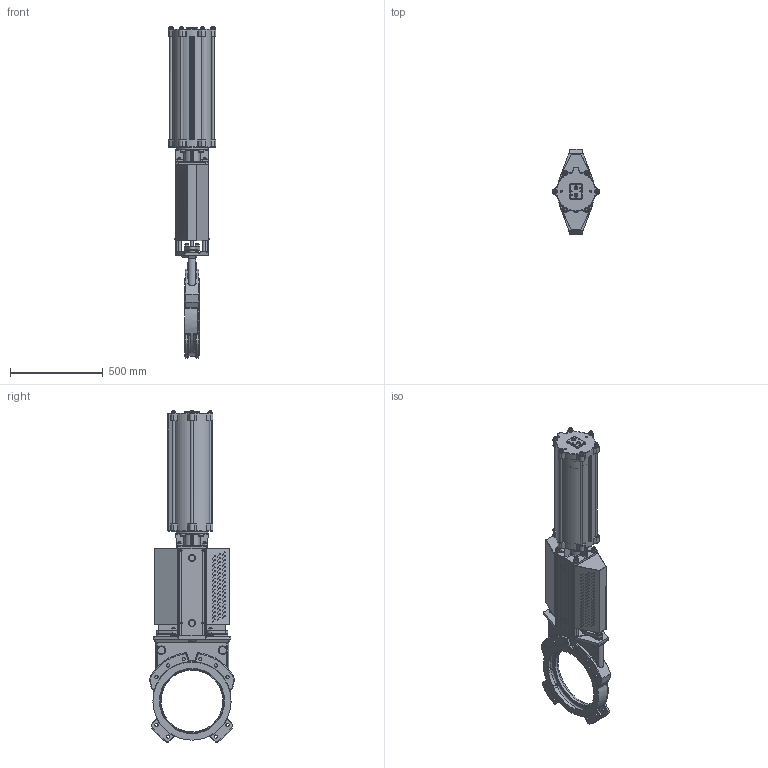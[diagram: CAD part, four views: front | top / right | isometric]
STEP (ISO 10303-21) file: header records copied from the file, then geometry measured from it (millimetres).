
FILE_DESCRIPTION(/* description */ (''),/* implementation_level */ '2;1');
FILE_NAME(/* name */ 'F:\Emir\3D-block special\MV VALVE\PNEUMATIC ACTUATOR\MV-DN350-PN10-FRSC200-450.stp',/* time_stamp */ '2018-04-24T10:56:24+02:00',/* author */ ('emimus'),/* organization */ (''),/* preprocessor_version */ 'ST-DEVELOPER v17',/* originating_system */ 'Autodesk Inventor 2018',/* authorisation */ '');
FILE_SCHEMA (('CONFIG_CONTROL_DESIGN'));
Products named in the file (1): MV-DN350-PN10-FRSC200-450
Bounding box: 256 x 458.23 x 1785.3 mm (x, y, z)
Volume: 17789064.6 mm3; surface area: 4217213.3 mm2
Topology: 1 solids, 1 shells, 3290 faces, 8271 edges, 5097 vertices
Faces by surface type: plane 1107, cylinder 1020, bspline 368, torus 343, cone 256, sphere 196
Full cylindrical faces by diameter (mm): 4 x2, 4.2 x16, 4.5 x4, 4.917 x7, 6.647 x4, 7.5 x4, 8.376 x4, 9.5 x2, 10 x9, 10.106 x6, 12 x20, 13 x22, 15 x4, 16 x12, 17 x4, 17.294 x20, 18 x3, 18.631 x2, 24 x19, 25 x2, 28 x5, 30 x4, 31.67 x1, 33 x1, 36 x2, 40 x5, 40.1 x1, 40.2 x2, 44 x2, 46 x1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
Entity records: 111758 total; most frequent: CARTESIAN_POINT 32843, DIRECTION 16966, ORIENTED_EDGE 16434, EDGE_CURVE 8217, AXIS2_PLACEMENT_3D 6880, VERTEX_POINT 5097, EDGE_LOOP 3786, CIRCLE 3694
